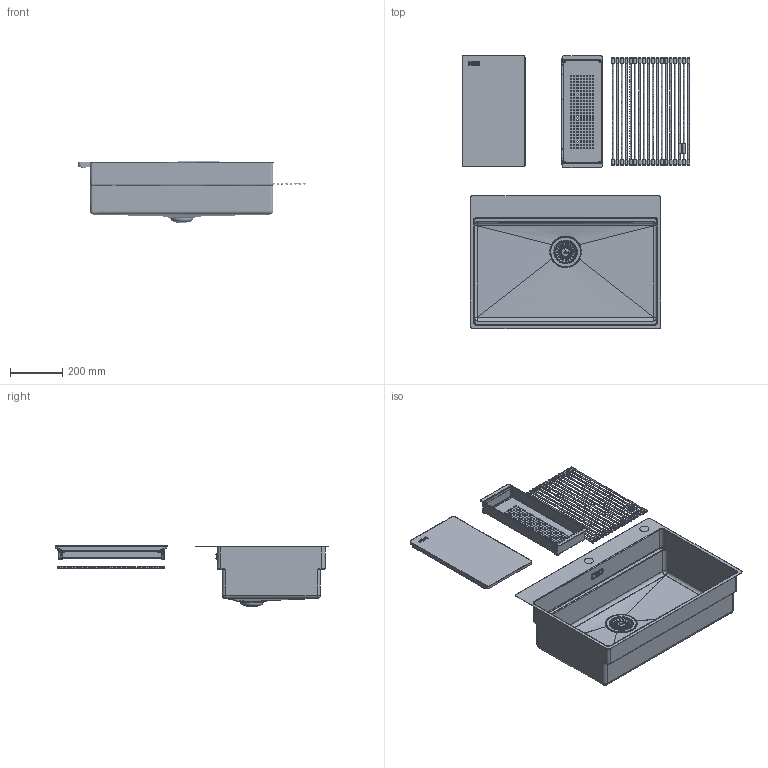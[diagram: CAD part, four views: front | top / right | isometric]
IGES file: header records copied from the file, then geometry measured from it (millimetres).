
Global section: file name: F:\_CONVERSIONE_CAD_2024_2025\PACCHETTI_2026\NUOVI_PACCHETTI_LUGLIO\PRIORITY_1\3D001_Sinks_Box-Pro_BXX-PRO-210-70-TL\3D001_Sinks_Box-Pro_BXX-PRO-210-70-TL.igs; native system: Rhinoceros ( May  6 2026 ); preprocessor: Trout Lake IGES 012 May  6 2026; date: 260708.080759; units: millimetre
Bounding box: 870.31 x 1047.9 x 234.72 mm (x, y, z)
Surface area: 2408832.2 mm2 (no closed solid volume)
Topology: 0 solids, 0 shells, 5430 faces, 31842 edges, 31583 vertices
Faces by surface type: bspline 5430
